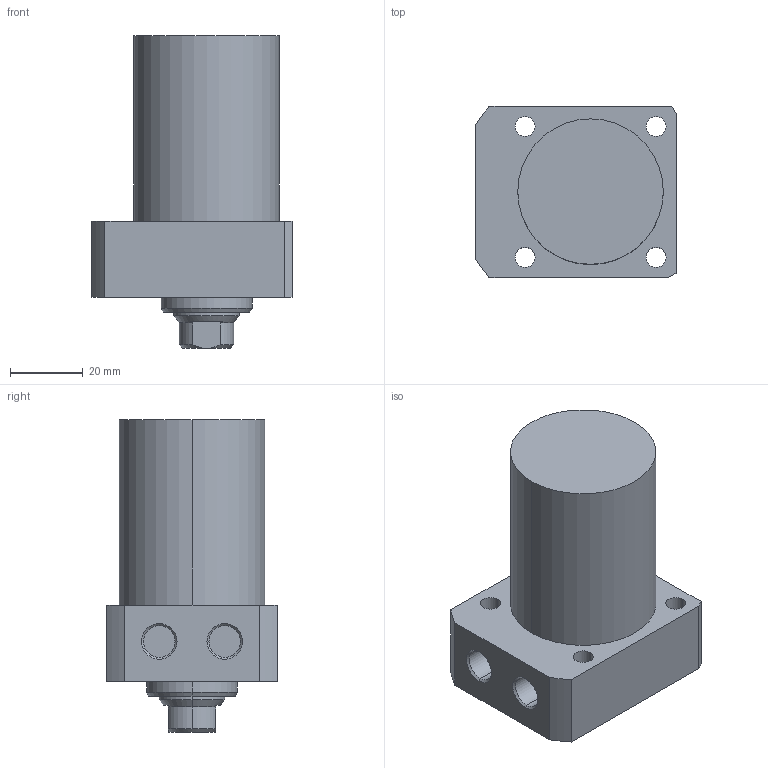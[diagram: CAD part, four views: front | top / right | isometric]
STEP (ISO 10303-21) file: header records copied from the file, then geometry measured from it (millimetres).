
FILE_DESCRIPTION (( 'STEP AP203' ), '1' );
FILE_NAME ('CLL-R040-CA-040.STEP', '2017-05-10T11:50:02', ( '' ), ( '' ), 'SwSTEP 2.0', 'SolidWorks 2015', '' );
FILE_SCHEMA (( 'CONFIG_CONTROL_DESIGN' ));
Length unit declared in the file: millimetre
Products named in the file (1): CLL-R040-CA-040
Bounding box: 55 x 47 x 86 mm (x, y, z)
Volume: 117152.9 mm3; surface area: 18872.8 mm2
Topology: 1 solids, 1 shells, 63 faces, 147 edges, 92 vertices
Faces by surface type: cylinder 29, plane 19, cone 15
Entity records: 1913 total; most frequent: DIRECTION 338, CARTESIAN_POINT 337, ORIENTED_EDGE 290, EDGE_CURVE 145, AXIS2_PLACEMENT_3D 137, VERTEX_POINT 92, EDGE_LOOP 79, CIRCLE 73
